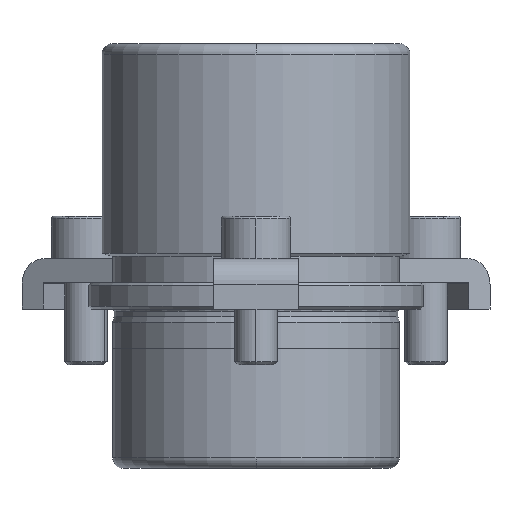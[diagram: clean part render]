
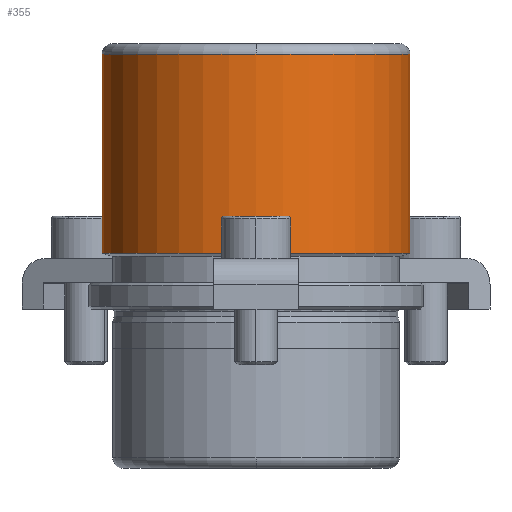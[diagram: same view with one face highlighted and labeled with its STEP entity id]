
A CAD part, front view. The second image highlights one B-rep face of the part: STEP entity #355.
In plain terms, the highlighted cylindrical face has radius 29 mm (diameter 58 mm), a partial arc.
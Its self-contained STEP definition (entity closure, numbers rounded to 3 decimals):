
#269=CARTESIAN_POINT('',(0.0,-29.,48.));
#270=VERTEX_POINT('',#269);
#296=CARTESIAN_POINT('',(-29.0,0.,48.0));
#297=VERTEX_POINT('',#296);
#305=CARTESIAN_POINT('',(0.0,0.,48.0));
#306=DIRECTION('',(0.0,0.0,1.0));
#307=DIRECTION('',(1.0,0.0,0.0));
#308=AXIS2_PLACEMENT_3D('',#305,#306,#307);
#309=CIRCLE('',#308,29.);
#310=EDGE_CURVE('',#297,#270,#309,.T.);
#315=CARTESIAN_POINT('',(0.0,0.,29.25));
#316=DIRECTION('',(0.0,0.,1.0));
#317=DIRECTION('',(1.0,0.0,0.0));
#318=AXIS2_PLACEMENT_3D('',#315,#316,#317);
#319=CYLINDRICAL_SURFACE('',#318,29.0);
#320=CARTESIAN_POINT('',(29.,0.,48.0));
#321=VERTEX_POINT('',#320);
#322=CARTESIAN_POINT('',(29.0,0.,10.5));
#323=VERTEX_POINT('',#322);
#324=CARTESIAN_POINT('',(29.,0.,48.0));
#325=DIRECTION('',(0.0,0.0,-1.0));
#326=VECTOR('',#325,37.5);
#327=LINE('',#324,#326);
#328=EDGE_CURVE('',#321,#323,#327,.T.);
#329=ORIENTED_EDGE('',*,*,#328,.F.);
#330=CARTESIAN_POINT('',(0.0,0.,48.0));
#331=DIRECTION('',(0.0,0.0,1.0));
#332=DIRECTION('',(1.0,0.0,0.0));
#333=AXIS2_PLACEMENT_3D('',#330,#331,#332);
#334=CIRCLE('',#333,29.);
#335=EDGE_CURVE('',#270,#321,#334,.T.);
#336=ORIENTED_EDGE('',*,*,#335,.F.);
#337=ORIENTED_EDGE('',*,*,#310,.F.);
#338=CARTESIAN_POINT('',(-29.0,0.,10.5));
#339=VERTEX_POINT('',#338);
#340=CARTESIAN_POINT('',(-29.0,0.,48.0));
#341=DIRECTION('',(0.0,0.0,-1.0));
#342=VECTOR('',#341,37.5);
#343=LINE('',#340,#342);
#344=EDGE_CURVE('',#297,#339,#343,.T.);
#345=ORIENTED_EDGE('',*,*,#344,.T.);
#346=CARTESIAN_POINT('',(0.0,0.,10.5));
#347=DIRECTION('',(0.0,0.0,1.0));
#348=DIRECTION('',(1.0,0.0,0.0));
#349=AXIS2_PLACEMENT_3D('',#346,#347,#348);
#350=CIRCLE('',#349,29.0);
#351=EDGE_CURVE('',#339,#323,#350,.T.);
#352=ORIENTED_EDGE('',*,*,#351,.T.);
#353=EDGE_LOOP('',(#329,#336,#337,#345,#352));
#354=FACE_OUTER_BOUND('',#353,.T.);
#355=ADVANCED_FACE('',(#354),#319,.T.);
